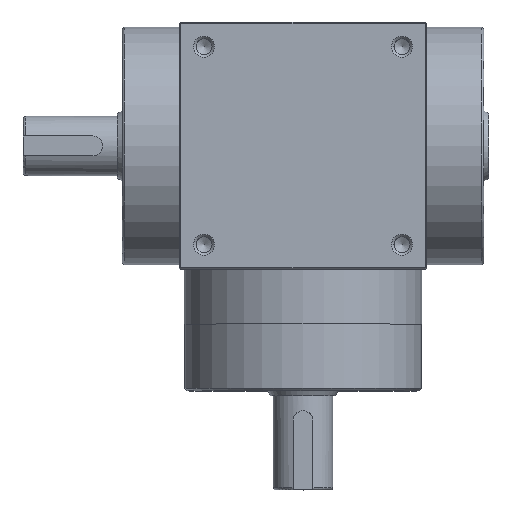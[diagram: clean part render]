
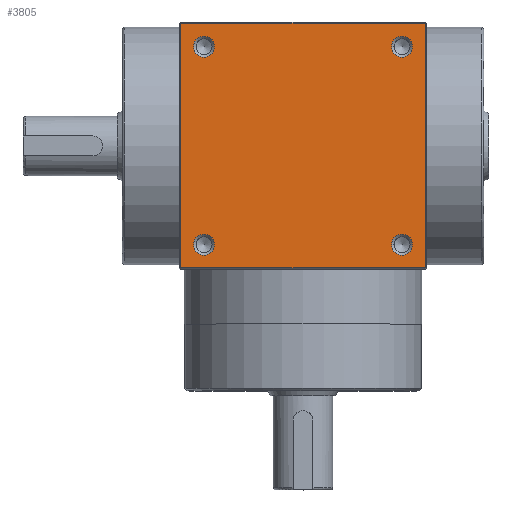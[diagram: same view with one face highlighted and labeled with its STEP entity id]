
A CAD part, top view. The second image highlights one B-rep face of the part: STEP entity #3805.
In plain terms, the highlighted planar face has unit normal (0, 0, 1).
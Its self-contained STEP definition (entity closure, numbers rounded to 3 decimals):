
#3718=CARTESIAN_POINT('',(-17.879,-20.0,50.0));
#3719=VERTEX_POINT('',#3718);
#3720=CARTESIAN_POINT('',(-20.,-20.0,50.0));
#3721=DIRECTION('',(0.0,0.0,1.0));
#3722=DIRECTION('',(-1.0,0.0,0.0));
#3723=AXIS2_PLACEMENT_3D('',#3720,#3721,#3722);
#3724=CIRCLE('',#3723,2.121);
#3725=EDGE_CURVE('',#3719,#3719,#3724,.T.);
#3730=CARTESIAN_POINT('',(0.,0.0,50.0));
#3731=DIRECTION('',(0.0,0.0,1.0));
#3732=DIRECTION('',(1.0,0.0,0.0));
#3733=AXIS2_PLACEMENT_3D('',#3730,#3731,#3732);
#3734=PLANE('',#3733);
#3735=CARTESIAN_POINT('',(-24.7,-24.7,50.0));
#3736=VERTEX_POINT('',#3735);
#3737=CARTESIAN_POINT('',(-24.7,24.7,50.0));
#3738=VERTEX_POINT('',#3737);
#3739=CARTESIAN_POINT('',(-24.7,-24.7,50.0));
#3740=DIRECTION('',(0.0,1.0,0.0));
#3741=VECTOR('',#3740,49.4);
#3742=LINE('',#3739,#3741);
#3743=EDGE_CURVE('',#3736,#3738,#3742,.T.);
#3744=ORIENTED_EDGE('',*,*,#3743,.F.);
#3745=CARTESIAN_POINT('',(24.7,-24.7,50.0));
#3746=VERTEX_POINT('',#3745);
#3747=CARTESIAN_POINT('',(24.7,-24.7,50.0));
#3748=DIRECTION('',(-1.0,0.0,0.0));
#3749=VECTOR('',#3748,49.4);
#3750=LINE('',#3747,#3749);
#3751=EDGE_CURVE('',#3746,#3736,#3750,.T.);
#3752=ORIENTED_EDGE('',*,*,#3751,.F.);
#3753=CARTESIAN_POINT('',(24.7,24.7,50.0));
#3754=VERTEX_POINT('',#3753);
#3755=CARTESIAN_POINT('',(24.7,24.7,50.0));
#3756=DIRECTION('',(0.0,-1.0,0.0));
#3757=VECTOR('',#3756,49.4);
#3758=LINE('',#3755,#3757);
#3759=EDGE_CURVE('',#3754,#3746,#3758,.T.);
#3760=ORIENTED_EDGE('',*,*,#3759,.F.);
#3761=CARTESIAN_POINT('',(-24.7,24.7,50.0));
#3762=DIRECTION('',(1.0,0.0,0.0));
#3763=VECTOR('',#3762,49.4);
#3764=LINE('',#3761,#3763);
#3765=EDGE_CURVE('',#3738,#3754,#3764,.T.);
#3766=ORIENTED_EDGE('',*,*,#3765,.F.);
#3767=EDGE_LOOP('',(#3744,#3752,#3760,#3766));
#3768=FACE_OUTER_BOUND('',#3767,.T.);
#3769=CARTESIAN_POINT('',(22.121,-20.0,50.0));
#3770=VERTEX_POINT('',#3769);
#3771=CARTESIAN_POINT('',(20.,-20.0,50.0));
#3772=DIRECTION('',(0.0,0.0,1.0));
#3773=DIRECTION('',(-1.0,0.0,0.0));
#3774=AXIS2_PLACEMENT_3D('',#3771,#3772,#3773);
#3775=CIRCLE('',#3774,2.121);
#3776=EDGE_CURVE('',#3770,#3770,#3775,.T.);
#3777=ORIENTED_EDGE('',*,*,#3776,.F.);
#3778=EDGE_LOOP('',(#3777));
#3779=FACE_BOUND('',#3778,.T.);
#3780=CARTESIAN_POINT('',(-17.879,20.0,50.0));
#3781=VERTEX_POINT('',#3780);
#3782=CARTESIAN_POINT('',(-20.,20.0,50.0));
#3783=DIRECTION('',(0.0,0.0,1.0));
#3784=DIRECTION('',(-1.0,0.0,0.0));
#3785=AXIS2_PLACEMENT_3D('',#3782,#3783,#3784);
#3786=CIRCLE('',#3785,2.121);
#3787=EDGE_CURVE('',#3781,#3781,#3786,.T.);
#3788=ORIENTED_EDGE('',*,*,#3787,.F.);
#3789=EDGE_LOOP('',(#3788));
#3790=FACE_BOUND('',#3789,.T.);
#3791=CARTESIAN_POINT('',(22.121,20.0,50.0));
#3792=VERTEX_POINT('',#3791);
#3793=CARTESIAN_POINT('',(20.0,20.0,50.0));
#3794=DIRECTION('',(0.0,0.0,1.0));
#3795=DIRECTION('',(-1.0,0.0,0.0));
#3796=AXIS2_PLACEMENT_3D('',#3793,#3794,#3795);
#3797=CIRCLE('',#3796,2.121);
#3798=EDGE_CURVE('',#3792,#3792,#3797,.T.);
#3799=ORIENTED_EDGE('',*,*,#3798,.F.);
#3800=EDGE_LOOP('',(#3799));
#3801=FACE_BOUND('',#3800,.T.);
#3802=ORIENTED_EDGE('',*,*,#3725,.F.);
#3803=EDGE_LOOP('',(#3802));
#3804=FACE_BOUND('',#3803,.T.);
#3805=ADVANCED_FACE('',(#3768,#3779,#3790,#3801,#3804),#3734,.T.);
